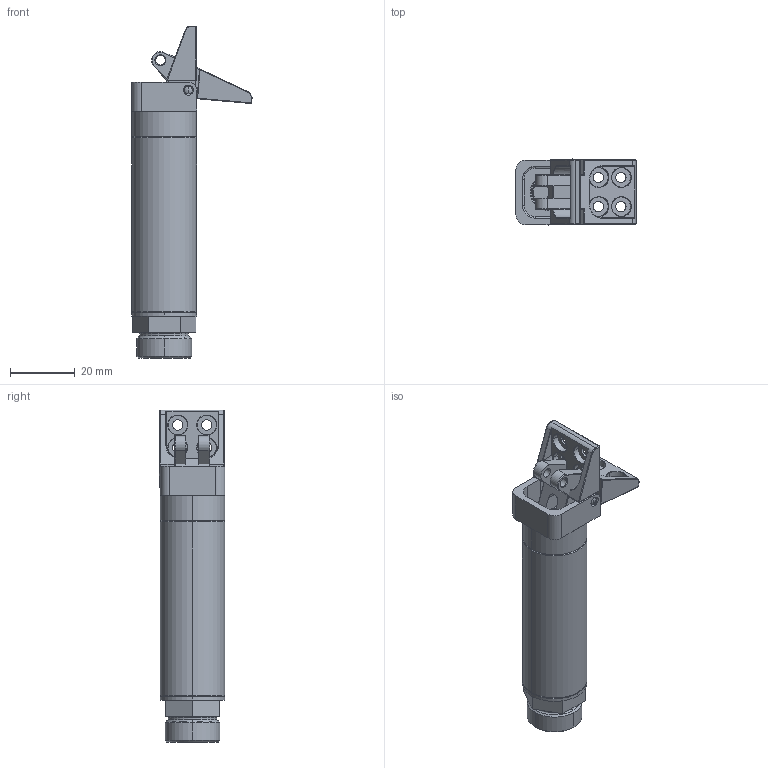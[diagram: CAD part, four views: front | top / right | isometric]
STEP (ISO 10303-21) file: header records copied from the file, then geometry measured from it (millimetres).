
FILE_DESCRIPTION (( 'STEP AP214' ), '1' );
FILE_NAME ('GFR20-95.STEP', '2020-11-24T09:45:29', ( 'admin' ), ( '' ), 'SwSTEP 2.0', 'SolidWorks 2016', '' );
FILE_SCHEMA (( 'AUTOMOTIVE_DESIGN' ));
Length unit declared in the file: millimetre
Products named in the file (1): GFR20-95
Bounding box: 37.2 x 20.33 x 102.85 mm (x, y, z)
Volume: 22642.6 mm3; surface area: 19800.6 mm2
Topology: 9 solids, 9 shells, 480 faces, 1172 edges, 716 vertices
Faces by surface type: cylinder 198, plane 108, cone 70, torus 57, bspline 31, sphere 16
Entity records: 21071 total; most frequent: CARTESIAN_POINT 4307, DIRECTION 2498, ORIENTED_EDGE 2320, EDGE_CURVE 1160, AXIS2_PLACEMENT_3D 1027, VERTEX_POINT 716, CIRCLE 577, EDGE_LOOP 542
